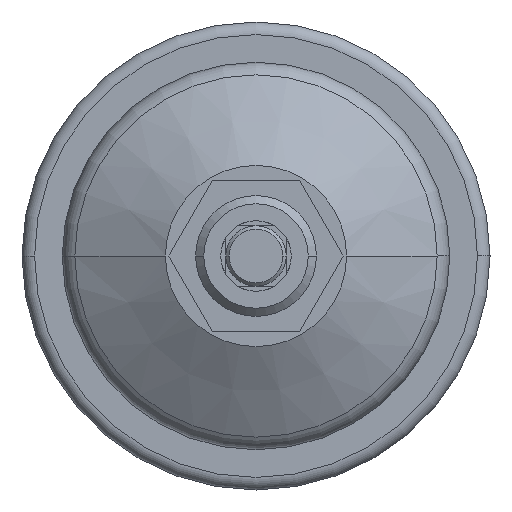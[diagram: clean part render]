
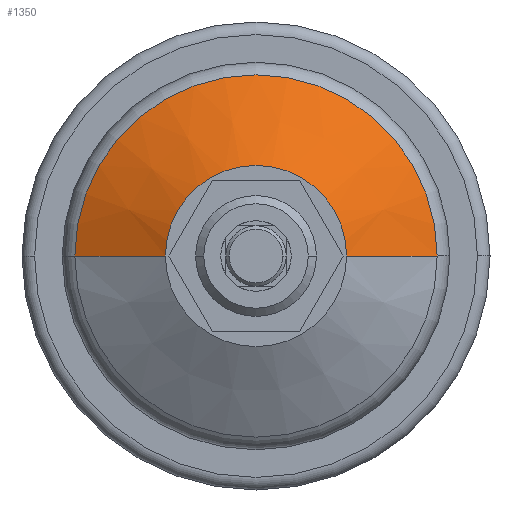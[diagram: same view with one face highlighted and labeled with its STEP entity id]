
A CAD part, front view. The second image highlights one B-rep face of the part: STEP entity #1350.
In plain terms, the highlighted conical face has half-angle 60 degrees and reference radius 27 mm.
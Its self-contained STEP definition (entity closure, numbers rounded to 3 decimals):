
#310=CARTESIAN_POINT('',(0.,0.,58.392));
#311=DIRECTION('',(0.,0.,1.));
#312=DIRECTION('',(0.,1.,0.));
#313=AXIS2_PLACEMENT_3D('',#310,#311,#312);
#318=CARTESIAN_POINT('',(0.,0.,48.));
#319=DIRECTION('',(0.,0.,1.));
#320=DIRECTION('',(0.,1.,0.));
#321=AXIS2_PLACEMENT_3D('',#318,#319,#320);
#380=DIRECTION('',(0.,0.866,0.5));
#381=VECTOR('',#380,20.785);
#382=CARTESIAN_POINT('',(0.,18.,48.));
#383=LINE('',#382,#381);
#395=DIRECTION('',(0.,-0.866,0.5));
#396=VECTOR('',#395,20.785);
#397=CARTESIAN_POINT('',(0.,-18.,48.));
#398=LINE('',#397,#396);
#906=CARTESIAN_POINT('',(0.,18.,48.));
#907=CARTESIAN_POINT('',(0.,-18.,48.));
#908=VERTEX_POINT('',#906);
#909=VERTEX_POINT('',#907);
#930=CARTESIAN_POINT('',(0.,36.,58.392));
#931=CARTESIAN_POINT('',(0.,-36.,58.392));
#932=VERTEX_POINT('',#930);
#933=VERTEX_POINT('',#931);
#1336=CARTESIAN_POINT('',(0.,0.,53.196));
#1337=DIRECTION('',(0.,0.,1.));
#1338=DIRECTION('',(0.,1.,0.));
#1339=AXIS2_PLACEMENT_3D('',#1336,#1337,#1338);
#1340=CONICAL_SURFACE('',#1339,27.,60.);
#1342=ORIENTED_EDGE('',*,*,#1341,.T.);
#1344=ORIENTED_EDGE('',*,*,#1343,.F.);
#1345=ORIENTED_EDGE('',*,*,#1321,.F.);
#1347=ORIENTED_EDGE('',*,*,#1346,.T.);
#1348=EDGE_LOOP('',(#1342,#1344,#1345,#1347));
#1349=FACE_OUTER_BOUND('',#1348,.F.);
#1350=ADVANCED_FACE('',(#1349),#1340,.T.);
#314=CIRCLE('',#313,36.);
#322=CIRCLE('',#321,18.);
#1321=EDGE_CURVE('',#908,#909,#322,.T.);
#1341=EDGE_CURVE('',#932,#933,#314,.T.);
#1343=EDGE_CURVE('',#909,#933,#398,.T.);
#1346=EDGE_CURVE('',#908,#932,#383,.T.);
